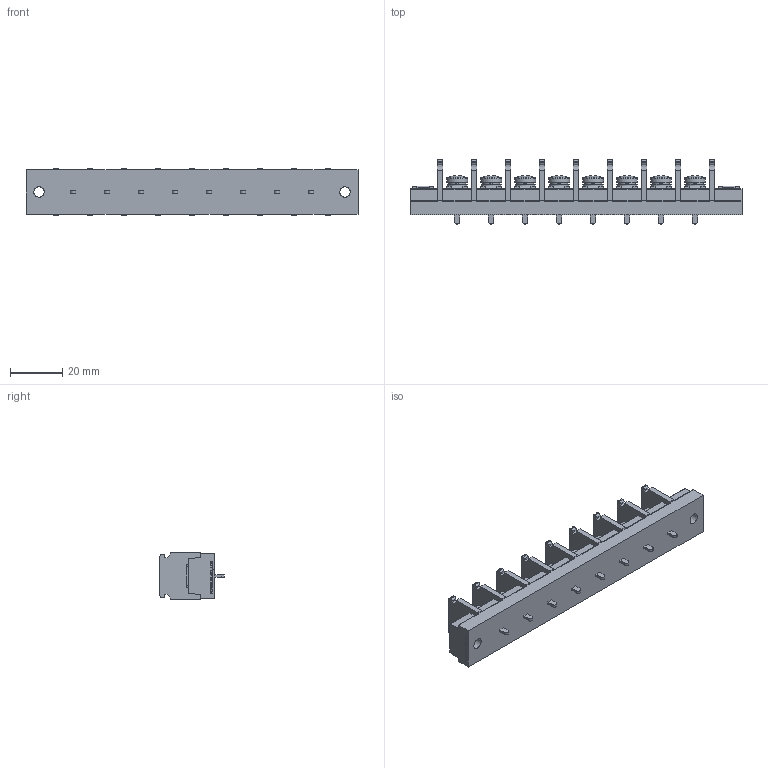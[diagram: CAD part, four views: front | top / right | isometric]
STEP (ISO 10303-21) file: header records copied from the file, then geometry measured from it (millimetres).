
FILE_DESCRIPTION(/* description */ ('Alibre Inc.'),/* implementation_level */ '2;1');
FILE_NAME(/* name */ 'export0',/* time_stamp */ '2016-08-02T19:26:45+09:00',/* author */ (''),/* organization */ (''),/* preprocessor_version */ 'ST-DEVELOPER v14',/* originating_system */ 'Alibre',/* authorisation */ '');
FILE_SCHEMA (('CONFIG_CONTROL_DESIGN'));
Length unit declared in the file: centimetre
Products named in the file (1): ID_1
Bounding box: 127 x 24.5 x 18 mm (x, y, z)
Volume: 25055.3 mm3; surface area: 13208.9 mm2
Topology: 1 solids, 41 shells, 1486 faces, 3922 edges, 2592 vertices
Faces by surface type: plane 1074, bspline 208, cylinder 148, cone 40, sphere 8, torus 8
Full cylindrical faces by diameter (mm): 4 x12, 6.5 x8, 7.7 x8, 8 x8
Entity records: 43883 total; most frequent: CARTESIAN_POINT 9897, ORIENTED_EDGE 7700, DIRECTION 5244, EDGE_CURVE 3850, VECTOR 2790, LINE 2790, VERTEX_POINT 2564, AXIS2_PLACEMENT_3D 1727
